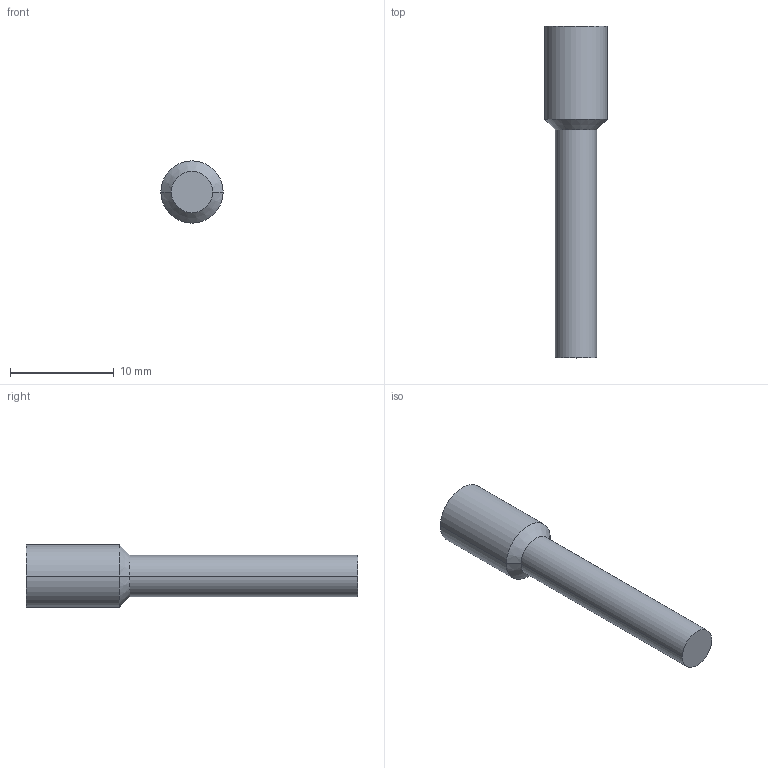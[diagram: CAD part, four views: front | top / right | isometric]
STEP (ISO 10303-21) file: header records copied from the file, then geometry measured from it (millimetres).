
FILE_DESCRIPTION( ( '' ), '1' );
FILE_NAME( 'G:/SMC狟婥/KPP-04.stp', '2023-03-08T05:53:43', ( '' ), ( '' ), ' ', ' ', ' ' );
FILE_SCHEMA( ( 'CONFIG_CONTROL_DESIGN' ) );
Length unit declared in the file: millimetre
Products named in the file (1): 1
Bounding box: 6 x 32 x 6 mm (x, y, z)
Volume: 550.8 mm3; surface area: 509.2 mm2
Topology: 1 solids, 1 shells, 8 faces, 14 edges, 8 vertices
Faces by surface type: cylinder 4, cone 2, plane 2
Entity records: 238 total; most frequent: DIRECTION 40, CARTESIAN_POINT 31, ORIENTED_EDGE 28, AXIS2_PLACEMENT_3D 17, EDGE_CURVE 14, ADVANCED_FACE 8, FACE_OUTER_BOUND 8, EDGE_LOOP 8
